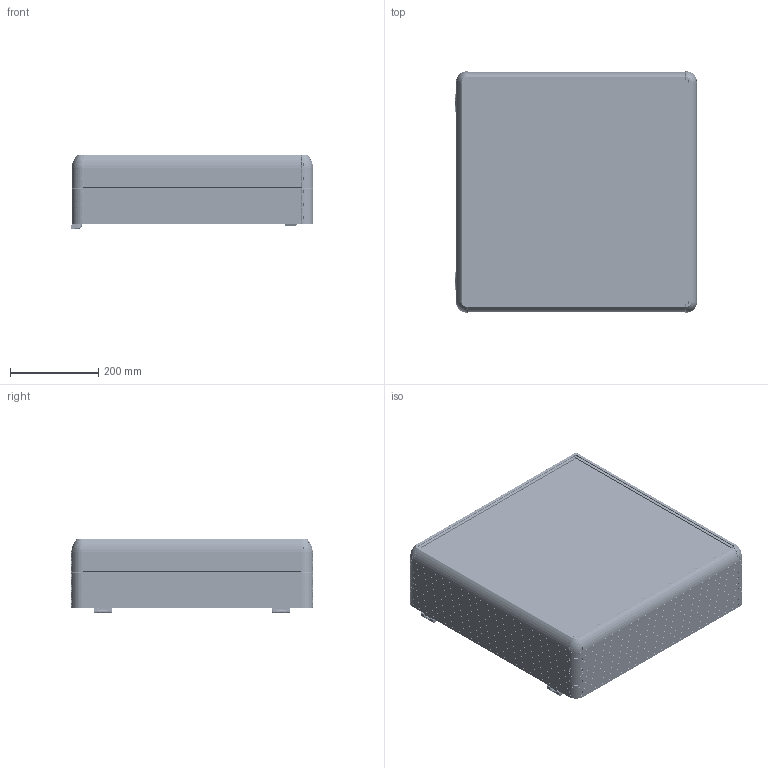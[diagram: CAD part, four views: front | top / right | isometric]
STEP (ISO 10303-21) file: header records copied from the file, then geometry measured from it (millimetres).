
FILE_DESCRIPTION (( 'STEP AP214' ), '1' );
FILE_NAME ('1500-0012.STEP', '2022-09-01T08:24:28', ( '' ), ( '' ), 'SwSTEP 2.0', 'SolidWorks 2022', '' );
FILE_SCHEMA (( 'AUTOMOTIVE_DESIGN' ));
Length unit declared in the file: millimetre
Products named in the file (5): 500X500; HPECO-150-001_495; ECO1500-0000; 1500-0012; ARKA_KAPAK_500X500
Assembly tree (10 placements, depth 2):
  1500-0012
    500X500
    ARKA_KAPAK_500X500
    HPECO-150-001_495  x4
    ECO1500-0000  x4
Bounding box: 549.03 x 547 x 169.15 mm (x, y, z)
Volume: 3205455.8 mm3; surface area: 2746445.6 mm2
Topology: 38 solids, 88 shells, 10509 faces, 27364 edges, 16590 vertices
Faces by surface type: plane 3481, cylinder 2888, bspline 2772, cone 766, torus 468, sphere 134
Entity records: 199995 total; most frequent: CARTESIAN_POINT 53694, ORIENTED_EDGE 23118, DIRECTION 19657, EDGE_CURVE 11559, AXIS2_PLACEMENT_3D 7310, VERTEX_POINT 7095, VECTOR 5037, LINE 5037
